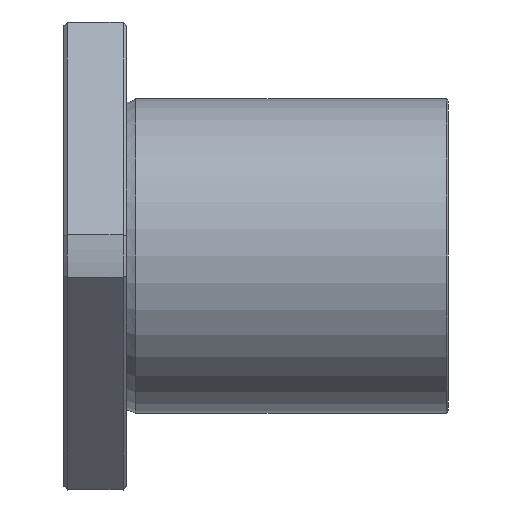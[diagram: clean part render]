
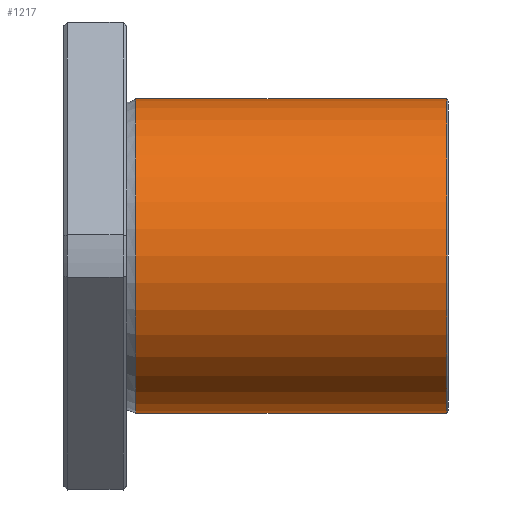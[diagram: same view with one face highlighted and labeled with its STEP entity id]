
A CAD part, front view. The second image highlights one B-rep face of the part: STEP entity #1217.
In plain terms, the highlighted cylindrical face has radius 45 mm (diameter 90 mm), a full revolution.
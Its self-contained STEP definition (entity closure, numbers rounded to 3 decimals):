
#1183=CARTESIAN_POINT('',(109.527,0.0,45.));
#1184=VERTEX_POINT('',#1183);
#1185=CARTESIAN_POINT('',(109.527,0.0,0.0));
#1186=DIRECTION('',(-1.0,0.0,0.0));
#1187=DIRECTION('',(0.0,0.0,1.0));
#1188=AXIS2_PLACEMENT_3D('',#1185,#1186,#1187);
#1189=CIRCLE('',#1188,45.);
#1190=EDGE_CURVE('',#1184,#1184,#1189,.T.);
#1198=CARTESIAN_POINT('',(65.036,0.0,0.0));
#1199=DIRECTION('',(-1.0,0.0,0.0));
#1200=DIRECTION('',(0.0,0.0,1.0));
#1201=AXIS2_PLACEMENT_3D('',#1198,#1199,#1200);
#1202=CYLINDRICAL_SURFACE('',#1201,45.);
#1203=CARTESIAN_POINT('',(20.546,0.0,45.));
#1204=VERTEX_POINT('',#1203);
#1205=CARTESIAN_POINT('',(20.546,0.0,0.0));
#1206=DIRECTION('',(-1.0,0.0,0.0));
#1207=DIRECTION('',(0.0,0.0,1.0));
#1208=AXIS2_PLACEMENT_3D('',#1205,#1206,#1207);
#1209=CIRCLE('',#1208,45.);
#1210=EDGE_CURVE('',#1204,#1204,#1209,.T.);
#1211=ORIENTED_EDGE('',*,*,#1210,.F.);
#1212=EDGE_LOOP('',(#1211));
#1213=FACE_OUTER_BOUND('',#1212,.T.);
#1214=ORIENTED_EDGE('',*,*,#1190,.T.);
#1215=EDGE_LOOP('',(#1214));
#1216=FACE_BOUND('',#1215,.T.);
#1217=ADVANCED_FACE('',(#1213,#1216),#1202,.T.);
